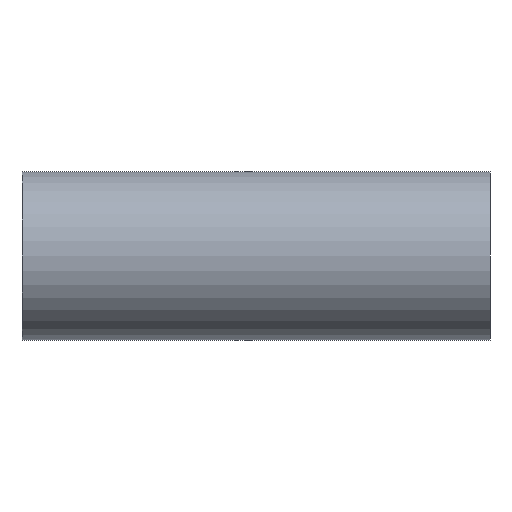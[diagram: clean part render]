
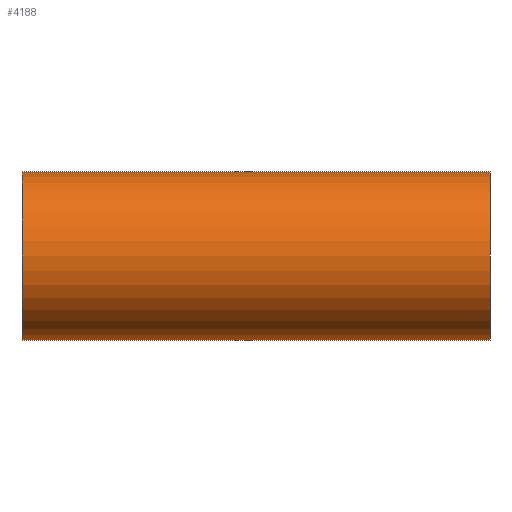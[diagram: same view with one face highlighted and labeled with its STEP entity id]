
A CAD part, left-side view. The second image highlights one B-rep face of the part: STEP entity #4188.
In plain terms, the highlighted cylindrical face has radius 90 mm (diameter 180 mm), a partial arc.
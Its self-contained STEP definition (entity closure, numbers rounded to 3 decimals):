
#138 = DIRECTION ( 'NONE',  ( 0., 0., -1. ) ) ;
#139 = CARTESIAN_POINT ( 'NONE',  ( 0., 500., 90. ) ) ;
#162 = CARTESIAN_POINT ( 'NONE',  ( 0., 500., 0. ) ) ;
#291 = EDGE_LOOP ( 'NONE', ( #973, #5452, #3902, #4962 ) ) ;
#507 = DIRECTION ( 'NONE',  ( 0., -1., 0. ) ) ;
#591 = CYLINDRICAL_SURFACE ( 'NONE', #2886, 90. ) ;
#648 = AXIS2_PLACEMENT_3D ( 'NONE', #4933, #2381, #1517 ) ;
#666 = CARTESIAN_POINT ( 'NONE',  ( 0., 500., -90. ) ) ;
#786 = CARTESIAN_POINT ( 'NONE',  ( 0., 0., 90. ) ) ;
#876 = CARTESIAN_POINT ( 'NONE',  ( 0., 500., 90. ) ) ;
#954 = VERTEX_POINT ( 'NONE', #786 ) ;
#967 = VERTEX_POINT ( 'NONE', #876 ) ;
#973 = ORIENTED_EDGE ( 'NONE', *, *, #1866, .F. ) ;
#1367 = CIRCLE ( 'NONE', #648, 90. ) ;
#1517 = DIRECTION ( 'NONE',  ( 0., 0., 1. ) ) ;
#1720 = AXIS2_PLACEMENT_3D ( 'NONE', #3157, #3599, #3514 ) ;
#1866 = EDGE_CURVE ( 'NONE', #967, #954, #3934, .T. ) ;
#1889 = LINE ( 'NONE', #666, #4765 ) ;
#1945 = DIRECTION ( 'NONE',  ( 0., -1., 0. ) ) ;
#2224 = VERTEX_POINT ( 'NONE', #4626 ) ;
#2381 = DIRECTION ( 'NONE',  ( 0., 1., 0. ) ) ;
#2598 = VECTOR ( 'NONE', #507, 1000. ) ;
#2692 = CIRCLE ( 'NONE', #1720, 90. ) ;
#2886 = AXIS2_PLACEMENT_3D ( 'NONE', #162, #5296, #138 ) ;
#3157 = CARTESIAN_POINT ( 'NONE',  ( 0., 0., 0. ) ) ;
#3179 = EDGE_CURVE ( 'NONE', #3282, #2224, #1889, .T. ) ;
#3180 = EDGE_CURVE ( 'NONE', #3282, #967, #1367, .T. ) ;
#3282 = VERTEX_POINT ( 'NONE', #3667 ) ;
#3514 = DIRECTION ( 'NONE',  ( 0., 0., 1. ) ) ;
#3599 = DIRECTION ( 'NONE',  ( 0., 1., 0. ) ) ;
#3667 = CARTESIAN_POINT ( 'NONE',  ( 0., 500., -90. ) ) ;
#3902 = ORIENTED_EDGE ( 'NONE', *, *, #3179, .T. ) ;
#3934 = LINE ( 'NONE', #139, #2598 ) ;
#4185 = EDGE_CURVE ( 'NONE', #2224, #954, #2692, .T. ) ;
#4188 = ADVANCED_FACE ( 'NONE', ( #4863 ), #591, .T. ) ;
#4626 = CARTESIAN_POINT ( 'NONE',  ( 0., 0., -90. ) ) ;
#4765 = VECTOR ( 'NONE', #1945, 1000. ) ;
#4863 = FACE_OUTER_BOUND ( 'NONE', #291, .T. ) ;
#4933 = CARTESIAN_POINT ( 'NONE',  ( 0., 500., 0. ) ) ;
#4962 = ORIENTED_EDGE ( 'NONE', *, *, #4185, .T. ) ;
#5296 = DIRECTION ( 'NONE',  ( 0., -1., 0. ) ) ;
#5452 = ORIENTED_EDGE ( 'NONE', *, *, #3180, .F. ) ;
